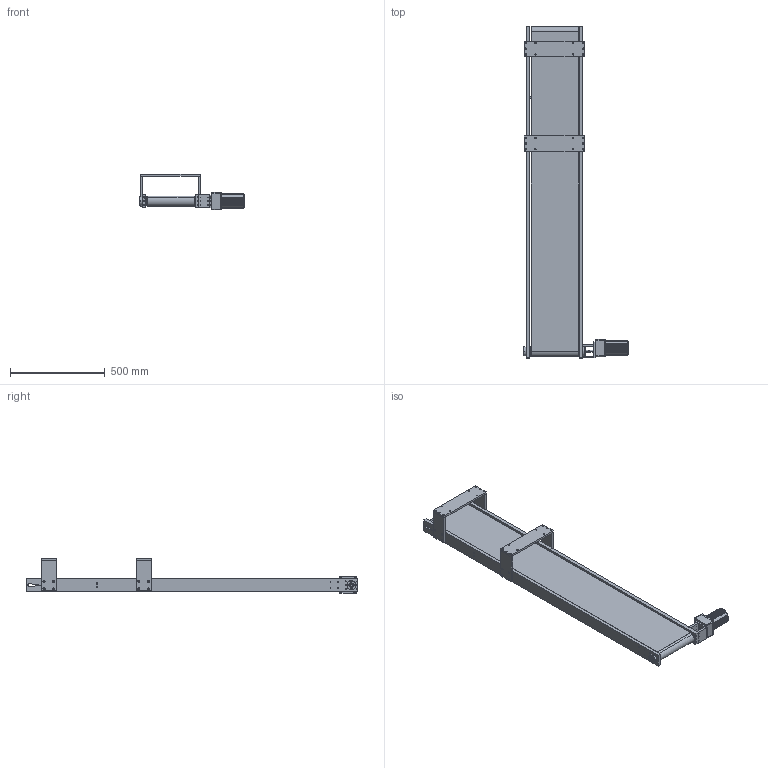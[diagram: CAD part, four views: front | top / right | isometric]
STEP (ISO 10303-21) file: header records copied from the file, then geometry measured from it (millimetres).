
FILE_DESCRIPTION(/* description */ (''),/* implementation_level */ '2;1');
FILE_NAME(/* name */ 'beltconveyor_a035_w250_l1750.stp',/* time_stamp */ '2024-12-18T23:11:42+08:00',/* author */ (''),/* organization */ (''),/* preprocessor_version */ 'ST-DEVELOPER v16.7',/* originating_system */ 'SIEMENS PLM Software NX 12.0',/* authorisation */ '');
FILE_SCHEMA (('AUTOMOTIVE_DESIGN { 1 0 10303 214 3 1 1 1 }'));
Length unit declared in the file: millimetre
Products named in the file (12): 下料运输拉电机安装板; 欧特电机5IK90RGN; 下料运输拉带皮带; 下料运输拉带主动滚筒; 下料运输拉导轨; 下料运输拉带底板; 下料运输拉带马达安装板; 下料运输拉带轴承座; 下料运输拉带支持板; 下料运输拉导轨1; 下料运输拉带皮带连接板; beltconveyor_a035_w250_l1750
Assembly tree (19 placements, depth 2):
  beltconveyor_a035_w250_l1750
    下料运输拉带皮带连接板  x3
    下料运输拉导轨1
    下料运输拉带支持板  x4
    下料运输拉带轴承座  x2
    下料运输拉带马达安装板  x2
    下料运输拉带底板  x2
    下料运输拉导轨
    下料运输拉带主动滚筒
    下料运输拉带皮带
    欧特电机5IK90RGN
    下料运输拉电机安装板
Bounding box: 551 x 1750 x 188.96 mm (x, y, z)
Volume: 9208344.5 mm3; surface area: 2940867.2 mm2
Topology: 57 solids, 57 shells, 1677 faces, 4345 edges, 2813 vertices
Faces by surface type: cylinder 617, plane 571, extrusion 369, cone 118, torus 2
Entity records: 49822 total; most frequent: CARTESIAN_POINT 16192, ORIENTED_EDGE 7292, DIRECTION 5687, EDGE_CURVE 3646, VERTEX_POINT 2418, AXIS2_PLACEMENT_3D 1931, VECTOR 1825, B_SPLINE_CURVE_WITH_KNOTS 1681
